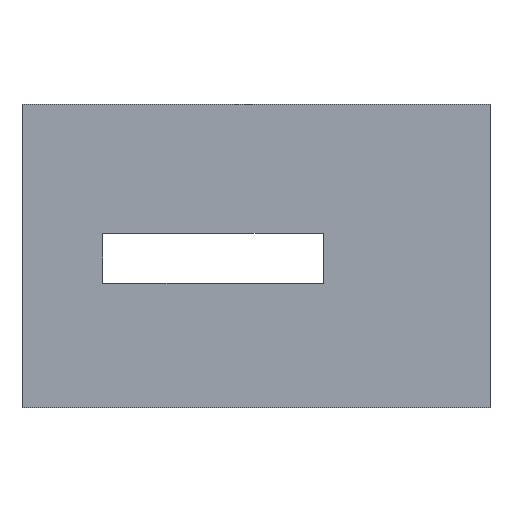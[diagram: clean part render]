
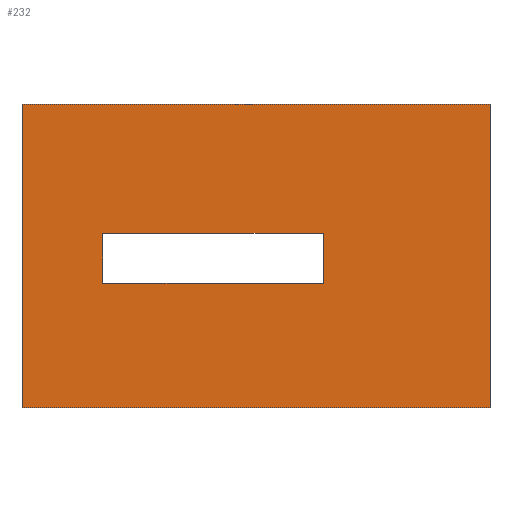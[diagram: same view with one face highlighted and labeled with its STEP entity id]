
A CAD part, top view. The second image highlights one B-rep face of the part: STEP entity #232.
In plain terms, the highlighted planar face has unit normal (0, 0, 1).
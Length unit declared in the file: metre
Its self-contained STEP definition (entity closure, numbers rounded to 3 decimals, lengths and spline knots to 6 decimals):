
#52=ORIENTED_EDGE('',*,*,#84,.T.);
#53=ORIENTED_EDGE('',*,*,#88,.T.);
#54=ORIENTED_EDGE('',*,*,#91,.F.);
#55=ORIENTED_EDGE('',*,*,#94,.F.);
#56=ORIENTED_EDGE('',*,*,#97,.F.);
#57=ORIENTED_EDGE('',*,*,#99,.F.);
#58=ORIENTED_EDGE('',*,*,#74,.T.);
#59=ORIENTED_EDGE('',*,*,#78,.T.);
#60=ORIENTED_EDGE('',*,*,#81,.F.);
#61=ORIENTED_EDGE('',*,*,#101,.F.);
#74=EDGE_CURVE('',#105,#104,#124,.T.);
#78=EDGE_CURVE('',#104,#107,#128,.T.);
#81=EDGE_CURVE('',#109,#107,#131,.T.);
#84=EDGE_CURVE('',#113,#112,#134,.T.);
#88=EDGE_CURVE('',#112,#115,#138,.T.);
#91=EDGE_CURVE('',#117,#115,#141,.T.);
#94=EDGE_CURVE('',#119,#117,#144,.T.);
#97=EDGE_CURVE('',#121,#119,#147,.T.);
#99=EDGE_CURVE('',#113,#121,#149,.T.);
#101=EDGE_CURVE('',#105,#109,#151,.T.);
#104=VERTEX_POINT('',#321);
#105=VERTEX_POINT('',#323);
#107=VERTEX_POINT('',#329);
#109=VERTEX_POINT('',#335);
#112=VERTEX_POINT('',#342);
#113=VERTEX_POINT('',#344);
#115=VERTEX_POINT('',#350);
#117=VERTEX_POINT('',#356);
#119=VERTEX_POINT('',#362);
#121=VERTEX_POINT('',#368);
#124=LINE('',#322,#154);
#128=LINE('',#330,#158);
#131=LINE('',#336,#161);
#134=LINE('',#343,#164);
#138=LINE('',#351,#168);
#141=LINE('',#357,#171);
#144=LINE('',#363,#174);
#147=LINE('',#369,#177);
#149=LINE('',#372,#179);
#151=LINE('',#375,#181);
#154=VECTOR('',#265,1.);
#158=VECTOR('',#271,1.);
#161=VECTOR('',#276,1.);
#164=VECTOR('',#281,1.);
#168=VECTOR('',#287,1.);
#171=VECTOR('',#292,1.);
#174=VECTOR('',#297,1.);
#177=VECTOR('',#302,1.);
#179=VECTOR('',#306,1.);
#181=VECTOR('',#310,1.);
#192=EDGE_LOOP('',(#52,#53,#54,#55,#56,#57));
#193=EDGE_LOOP('',(#58,#59,#60,#61));
#206=FACE_BOUND('',#192,.T.);
#207=FACE_BOUND('',#193,.T.);
#220=PLANE('',#257);
#232=ADVANCED_FACE('',(#206,#207),#220,.T.);
#257=AXIS2_PLACEMENT_3D('',#376,#311,#312);
#265=DIRECTION('',(1.,0.,0.));
#271=DIRECTION('',(0.,1.,0.));
#276=DIRECTION('',(1.,0.,0.));
#281=DIRECTION('',(1.,0.,0.));
#287=DIRECTION('',(0.,-1.,0.));
#292=DIRECTION('',(1.,0.,0.));
#297=DIRECTION('',(0.,-1.,0.));
#302=DIRECTION('',(-1.,0.,0.));
#306=DIRECTION('',(0.,-1.,0.));
#310=DIRECTION('',(0.,1.,0.));
#311=DIRECTION('',(0.,0.,1.));
#312=DIRECTION('',(1.,0.,0.));
#321=CARTESIAN_POINT('',(0.095222,-0.087735,-0.071));
#322=CARTESIAN_POINT('',(-0.04979,-0.087735,-0.071));
#323=CARTESIAN_POINT('',(-0.194801,-0.087735,-0.071));
#329=CARTESIAN_POINT('',(0.095222,0.100616,-0.071));
#330=CARTESIAN_POINT('',(0.095222,0.032048,-0.071));
#335=CARTESIAN_POINT('',(-0.194801,0.100616,-0.071));
#336=CARTESIAN_POINT('',(-0.04979,0.100616,-0.071));
#342=CARTESIAN_POINT('',(-0.007921,0.020589,-0.071));
#343=CARTESIAN_POINT('',(-0.03135,0.020589,-0.071));
#344=CARTESIAN_POINT('',(-0.054778,0.020589,-0.071));
#350=CARTESIAN_POINT('',(-0.007921,-0.010479,-0.071));
#351=CARTESIAN_POINT('',(-0.007921,0.005055,-0.071));
#356=CARTESIAN_POINT('',(-0.144745,-0.010479,-0.071));
#357=CARTESIAN_POINT('',(-0.03135,-0.010479,-0.071));
#362=CARTESIAN_POINT('',(-0.144745,0.020225,-0.071));
#363=CARTESIAN_POINT('',(-0.144745,0.004873,-0.071));
#368=CARTESIAN_POINT('',(-0.054778,0.020225,-0.071));
#369=CARTESIAN_POINT('',(-0.099761,0.020225,-0.071));
#372=CARTESIAN_POINT('',(-0.054778,0.020407,-0.071));
#375=CARTESIAN_POINT('',(-0.194801,0.080602,-0.071));
#376=CARTESIAN_POINT('',(-0.04979,0.00644,-0.071));
